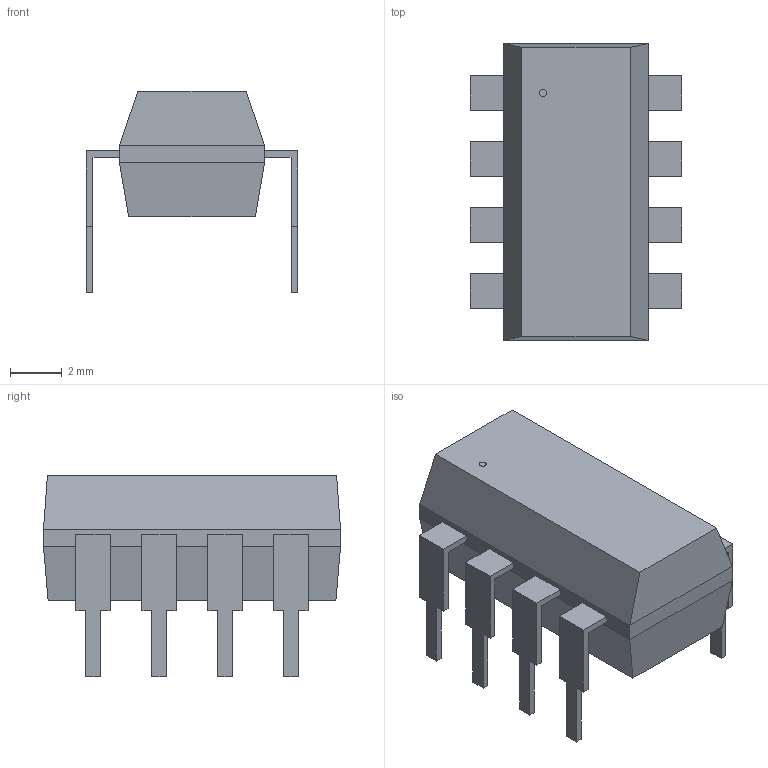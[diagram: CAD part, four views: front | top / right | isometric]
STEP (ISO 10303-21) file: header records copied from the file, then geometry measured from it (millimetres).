
FILE_DESCRIPTION(('STEP AP214'),'1');
FILE_NAME('DIP8_300','2025-12-19T02:38:17',(''),(''),'','','');
FILE_SCHEMA(('AUTOMOTIVE_DESIGN'));
Length unit declared in the file: millimetre
Products named in the file (1): product
Bounding box: 8.13 x 11.43 x 7.75 mm (x, y, z)
Volume: 292.9 mm3; surface area: 399.9 mm2
Topology: 10 solids, 10 shells, 113 faces, 271 edges, 178 vertices
Faces by surface type: plane 112, cylinder 1
Full cylindrical faces by diameter (mm): 0.279 x1
Entity records: 3197 total; most frequent: ORIENTED_EDGE 540, DIRECTION 502, CARTESIAN_POINT 295, EDGE_CURVE 270, LINE 268, VECTOR 268, VERTEX_POINT 178, AXIS2_PLACEMENT_3D 117
